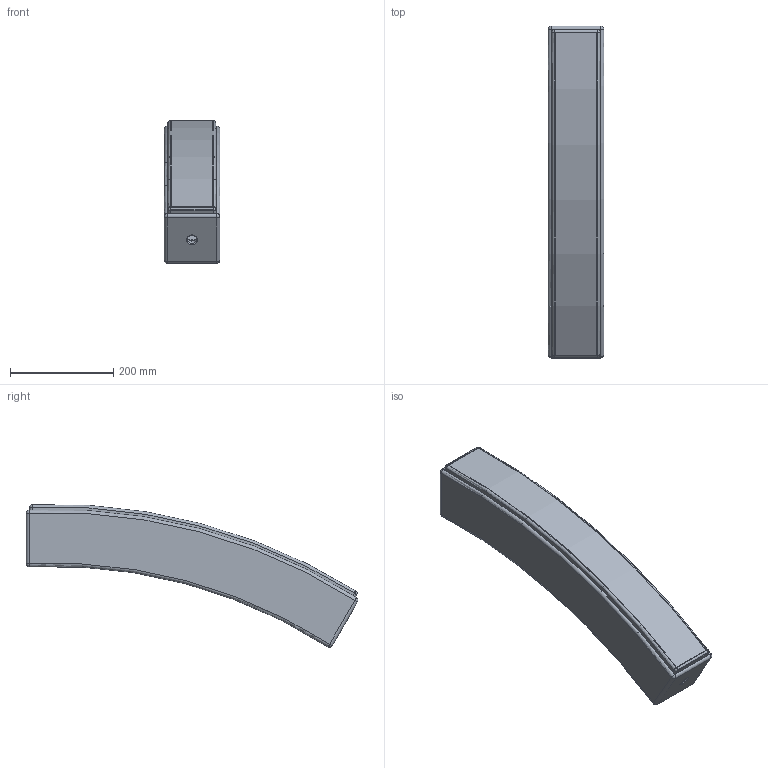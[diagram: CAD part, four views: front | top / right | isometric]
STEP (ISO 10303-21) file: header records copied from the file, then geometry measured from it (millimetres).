
FILE_DESCRIPTION (( 'STEP AP203' ), '1' );
FILE_NAME ('SEEBURG_L8c.STEP', '2012-09-26T09:39:49', ( 'Fabian' ), ( '' ), 'SwSTEP 2.0', 'SolidWorks 2009', '' );
FILE_SCHEMA (( 'CONFIG_CONTROL_DESIGN' ));
Length unit declared in the file: millimetre
Products named in the file (4): L8c_Gehäuse_Internet_Default; L8c_Rückwand_Internet; L8c_Stoffrahmen_Internet_Default; SEEBURG_L8c
Assembly tree (3 placements, depth 2):
  SEEBURG_L8c
    L8c_Stoffrahmen_Internet_Default
    L8c_Rückwand_Internet
    L8c_Gehäuse_Internet_Default
Bounding box: 108 x 642.32 x 275.95 mm (x, y, z)
Volume: 2637671.9 mm3; surface area: 726274.4 mm2
Topology: 8 solids, 8 shells, 141 faces, 336 edges, 199 vertices
Faces by surface type: plane 55, cylinder 49, cone 18, sphere 13, torus 6
Entity records: 4754 total; most frequent: CARTESIAN_POINT 1054, DIRECTION 732, ORIENTED_EDGE 648, EDGE_CURVE 324, AXIS2_PLACEMENT_3D 277, VERTEX_POINT 197, VECTOR 178, LINE 178
